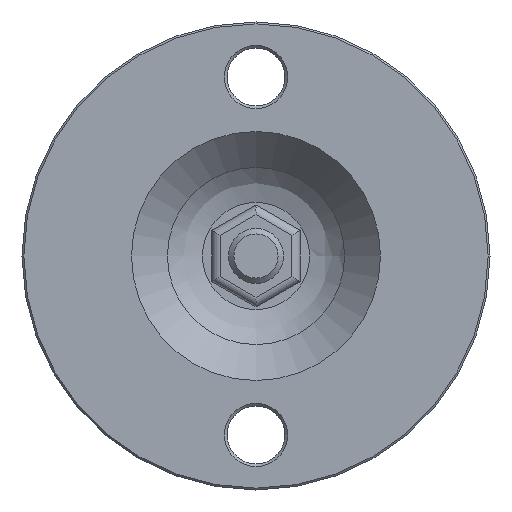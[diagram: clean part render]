
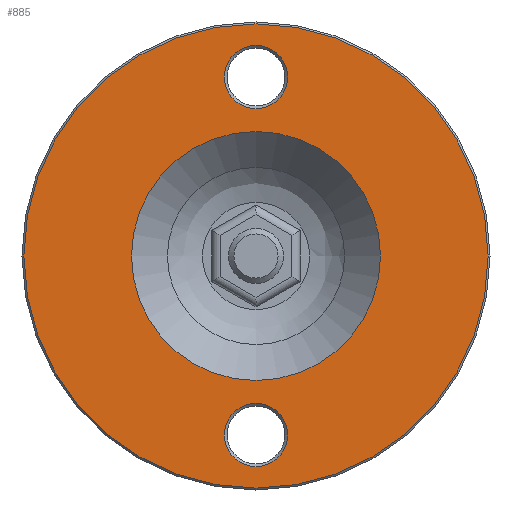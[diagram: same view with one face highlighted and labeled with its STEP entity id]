
A CAD part, front view. The second image highlights one B-rep face of the part: STEP entity #885.
In plain terms, the highlighted planar face has unit normal (0, -1, 0).
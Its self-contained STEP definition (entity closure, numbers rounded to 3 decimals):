
#110=CARTESIAN_POINT('',(395.92,36.016,0.0));
#111=VERTEX_POINT('',#110);
#118=CARTESIAN_POINT('',(350.7,36.016,0.0));
#119=VERTEX_POINT('',#118);
#120=CARTESIAN_POINT('',(373.31,36.016,0.0));
#121=DIRECTION('',(0.0,-1.0,0.0));
#122=DIRECTION('',(1.0,0.0,0.0));
#123=AXIS2_PLACEMENT_3D('',#120,#121,#122);
#124=CIRCLE('',#123,22.61);
#125=EDGE_CURVE('',#111,#119,#124,.T.);
#127=CARTESIAN_POINT('',(373.31,36.016,0.0));
#128=DIRECTION('',(0.0,-1.0,0.0));
#129=DIRECTION('',(1.0,0.0,0.0));
#130=AXIS2_PLACEMENT_3D('',#127,#128,#129);
#131=CIRCLE('',#130,22.61);
#132=EDGE_CURVE('',#119,#111,#131,.T.);
#166=CARTESIAN_POINT('',(415.465,36.016,0.0));
#167=VERTEX_POINT('',#166);
#193=CARTESIAN_POINT('',(331.156,36.016,0.0));
#194=VERTEX_POINT('',#193);
#195=CARTESIAN_POINT('',(373.31,36.016,0.0));
#196=DIRECTION('',(0.0,-1.0,0.0));
#197=DIRECTION('',(1.0,0.0,0.0));
#198=AXIS2_PLACEMENT_3D('',#195,#196,#197);
#199=CIRCLE('',#198,42.154);
#200=EDGE_CURVE('',#194,#167,#199,.T.);
#202=CARTESIAN_POINT('',(373.31,36.016,0.0));
#203=DIRECTION('',(0.0,-1.0,0.0));
#204=DIRECTION('',(1.0,0.0,0.0));
#205=AXIS2_PLACEMENT_3D('',#202,#203,#204);
#206=CIRCLE('',#205,42.154);
#207=EDGE_CURVE('',#167,#194,#206,.T.);
#832=CARTESIAN_POINT('',(289.001,36.016,-84.309));
#833=DIRECTION('',(0.0,1.0,0.0));
#834=DIRECTION('',(0.0,0.0,1.0));
#835=AXIS2_PLACEMENT_3D('',#832,#833,#834);
#836=PLANE('',#835);
#837=ORIENTED_EDGE('',*,*,#207,.T.);
#838=ORIENTED_EDGE('',*,*,#200,.T.);
#839=EDGE_LOOP('',(#837,#838));
#840=FACE_OUTER_BOUND('',#839,.T.);
#841=ORIENTED_EDGE('',*,*,#132,.F.);
#842=ORIENTED_EDGE('',*,*,#125,.F.);
#843=EDGE_LOOP('',(#841,#842));
#844=FACE_BOUND('',#843,.T.);
#845=CARTESIAN_POINT('',(373.31,36.016,-38.25));
#846=VERTEX_POINT('',#845);
#847=CARTESIAN_POINT('',(373.31,36.016,-26.75));
#848=VERTEX_POINT('',#847);
#849=CARTESIAN_POINT('',(373.31,36.016,-32.5));
#850=DIRECTION('',(0.0,-1.0,0.0));
#851=DIRECTION('',(0.0,0.0,1.0));
#852=AXIS2_PLACEMENT_3D('',#849,#850,#851);
#853=CIRCLE('',#852,5.75);
#854=EDGE_CURVE('',#846,#848,#853,.T.);
#855=ORIENTED_EDGE('',*,*,#854,.F.);
#856=CARTESIAN_POINT('',(373.31,36.016,-32.5));
#857=DIRECTION('',(0.0,-1.0,0.0));
#858=DIRECTION('',(0.0,0.0,1.0));
#859=AXIS2_PLACEMENT_3D('',#856,#857,#858);
#860=CIRCLE('',#859,5.75);
#861=EDGE_CURVE('',#848,#846,#860,.T.);
#862=ORIENTED_EDGE('',*,*,#861,.F.);
#863=EDGE_LOOP('',(#855,#862));
#864=FACE_BOUND('',#863,.T.);
#865=CARTESIAN_POINT('',(373.31,36.016,26.75));
#866=VERTEX_POINT('',#865);
#867=CARTESIAN_POINT('',(373.31,36.016,38.25));
#868=VERTEX_POINT('',#867);
#869=CARTESIAN_POINT('',(373.31,36.016,32.5));
#870=DIRECTION('',(0.0,-1.0,0.0));
#871=DIRECTION('',(0.0,0.0,1.0));
#872=AXIS2_PLACEMENT_3D('',#869,#870,#871);
#873=CIRCLE('',#872,5.75);
#874=EDGE_CURVE('',#866,#868,#873,.T.);
#875=ORIENTED_EDGE('',*,*,#874,.F.);
#876=CARTESIAN_POINT('',(373.31,36.016,32.5));
#877=DIRECTION('',(0.0,-1.0,0.0));
#878=DIRECTION('',(0.0,0.0,1.0));
#879=AXIS2_PLACEMENT_3D('',#876,#877,#878);
#880=CIRCLE('',#879,5.75);
#881=EDGE_CURVE('',#868,#866,#880,.T.);
#882=ORIENTED_EDGE('',*,*,#881,.F.);
#883=EDGE_LOOP('',(#875,#882));
#884=FACE_BOUND('',#883,.T.);
#885=ADVANCED_FACE('',(#840,#844,#864,#884),#836,.F.);
